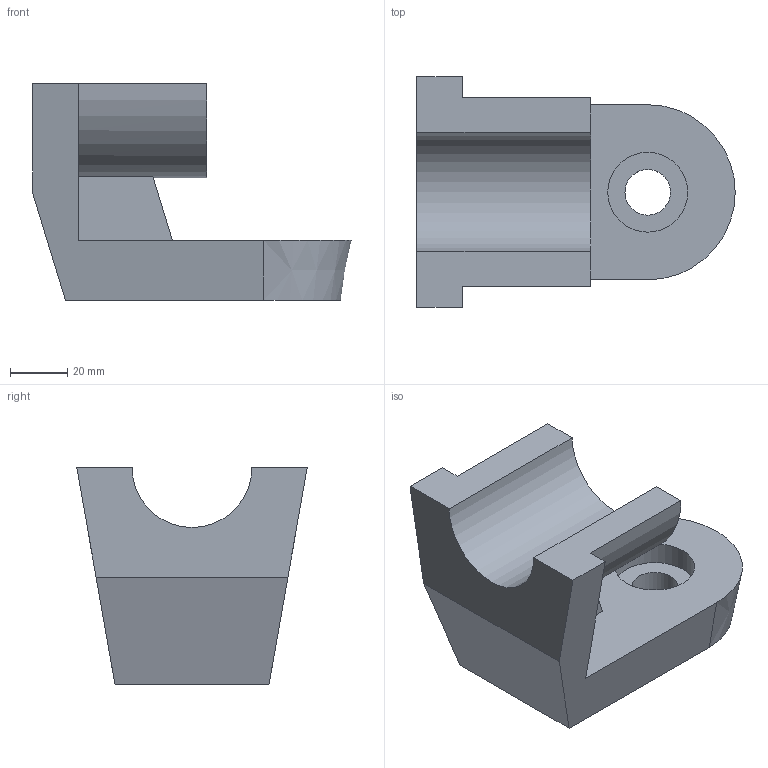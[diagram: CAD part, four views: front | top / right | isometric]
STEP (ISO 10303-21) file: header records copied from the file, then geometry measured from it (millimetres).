
FILE_DESCRIPTION(/* description */ (''),/* implementation_level */ '2;1');
FILE_NAME(/* name */ '09.step',/* time_stamp */ '2023-08-19T10:08:11+09:00',/* author */ (''),/* organization */ (''),/* preprocessor_version */ 'ST-DEVELOPER v19.2',/* originating_system */ 'Autodesk Translation Framework v12.4.0.73',/* authorisation */ '');
FILE_SCHEMA (('AUTOMOTIVE_DESIGN { 1 0 10303 214 3 1 1 }'));
Length unit declared in the file: millimetre
Products named in the file (1): (저장되지 않음)
Bounding box: 111.7 x 80.8 x 76 mm (x, y, z)
Volume: 210643.9 mm3; surface area: 36835.3 mm2
Topology: 1 solids, 1 shells, 20 faces, 51 edges, 34 vertices
Faces by surface type: plane 15, cylinder 4, cone 1
Full cylindrical faces by diameter (mm): 16 x1, 28 x1
Entity records: 644 total; most frequent: CARTESIAN_POINT 106, DIRECTION 105, ORIENTED_EDGE 102, EDGE_CURVE 51, LINE 39, VECTOR 39, VERTEX_POINT 34, AXIS2_PLACEMENT_3D 33
